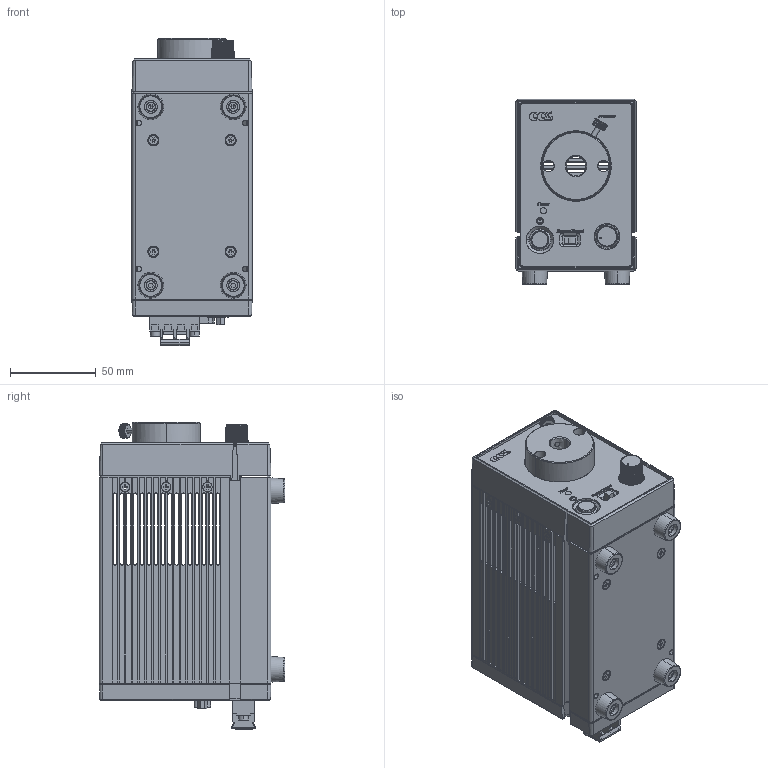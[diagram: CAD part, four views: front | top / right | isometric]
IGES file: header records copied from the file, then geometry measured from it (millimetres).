
Start section: SolidWorks IGES file using NURBS representation for surfaces
Bounding box: 70 x 108 x 178.92 mm (x, y, z)
Surface area: 133277.1 mm2 (no closed solid volume)
Topology: 0 solids, 0 shells, 1755 faces, 22658 edges, 22608 vertices
Faces by surface type: bspline 1755
